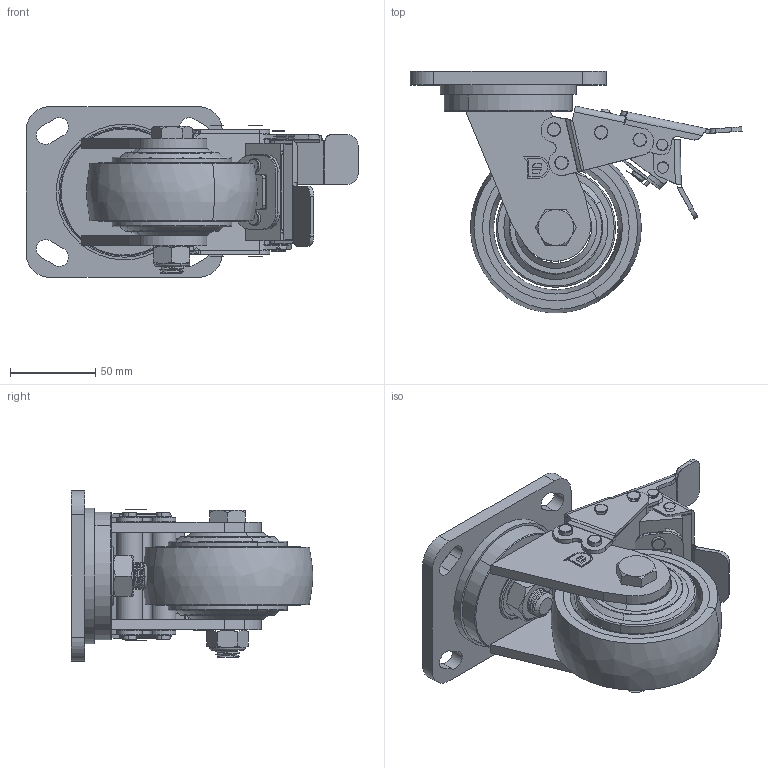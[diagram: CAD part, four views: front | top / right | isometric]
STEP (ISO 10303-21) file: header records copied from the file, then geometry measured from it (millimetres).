
FILE_DESCRIPTION((''),'2;1');
FILE_NAME('PRT0006','2025-05-19T18:53:02',('Administrator'),(''),'CREO PARAMETRIC BY PTC INC, 2022124','CREO PARAMETRIC BY PTC INC, 2022124','');
FILE_SCHEMA(('AP203_CONFIGURATION_CONTROLLED_3D_DESIGN_OF_MECHANICAL_PARTS_AND_ASSEMBLIES_MIM_LF { 1 0 10303 403 2 1 2 }'));
Length unit declared in the file: millimetre
Products named in the file (1): PRT0006
Bounding box: 194.58 x 141.6 x 100 mm (x, y, z)
Surface area: 118217.2 mm2 (no closed solid volume)
Topology: 0 solids, 48 shells, 354 faces, 1385 edges, 1061 vertices
Faces by surface type: plane 157, cylinder 101, cone 42, torus 36, bspline 17, extrusion 1
Entity records: 19588 total; most frequent: CARTESIAN_POINT 5662, DIRECTION 2373, ORIENTED_EDGE 2001, EDGE_CURVE 1381, VERTEX_POINT 1061, AXIS2_PLACEMENT_3D 823, VECTOR 724, LINE 723
